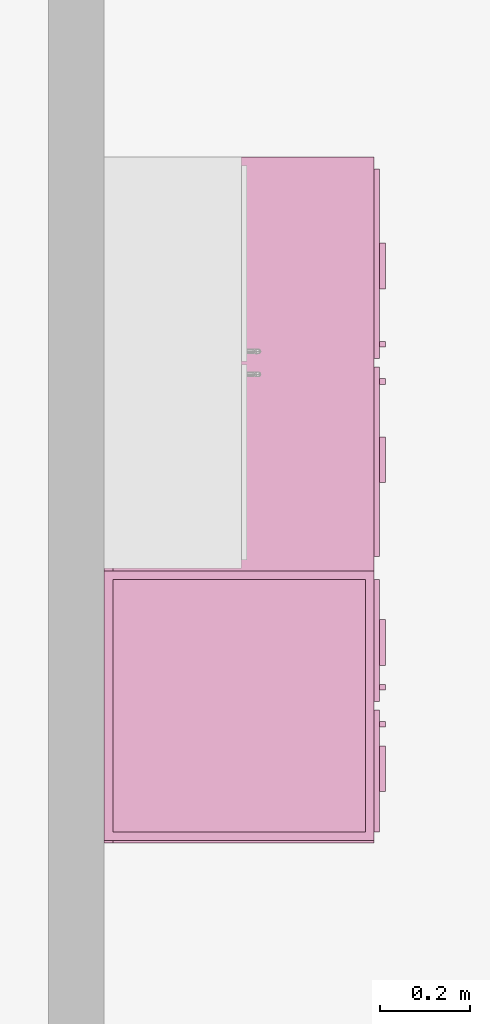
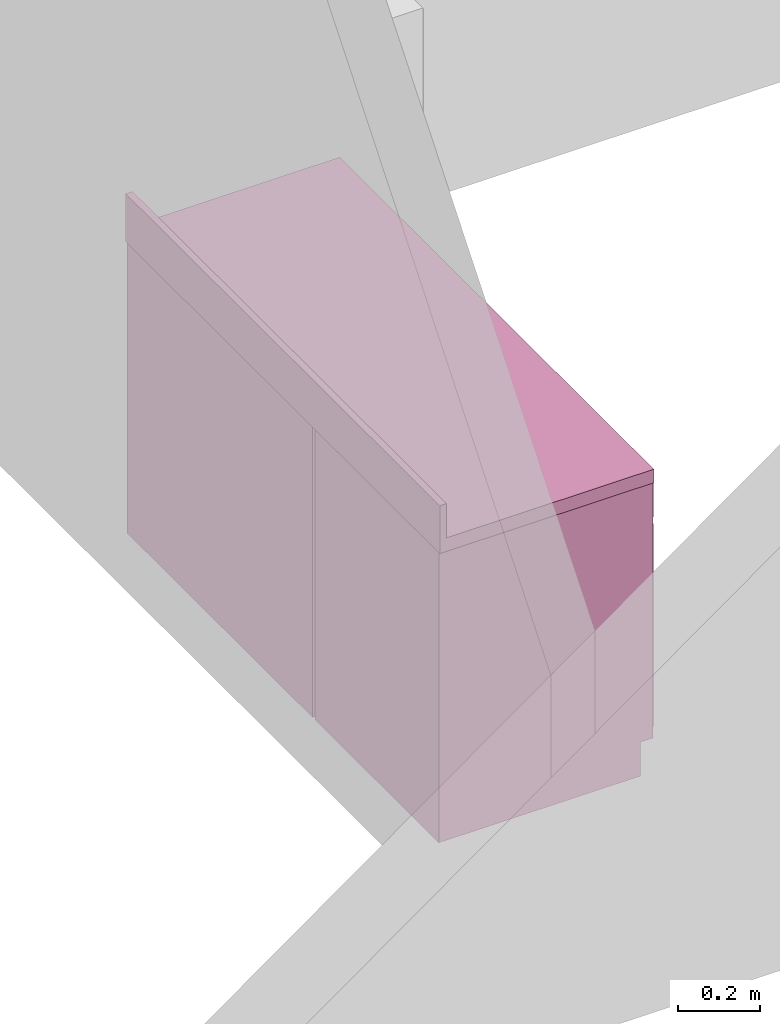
# One storey, part 71 of 82: 3 furnishings.
"""IFC2X3 building model written with IfcOpenShell, lengths in metres."""

from ifc_helpers import new_model, entity, si_unit, converted_unit, frame, origin, origin_2d_with_axis, place, context, project, spatial, rectangle, extrude, face_set, surface_model, source, transform, mapped, type_object, type_shapes, element, save


model = new_model("IFC2X3")

# Units and contexts
model_context = context("Model", 3, precision=1e-09, world=origin())
plan_context = context("Plan", 3, precision=1e-09, world=origin())
ifc_project = project(units=[si_unit("LENGTHUNIT", "METRE"), si_unit("AREAUNIT", "SQUARE_METRE"), si_unit("VOLUMEUNIT", "CUBIC_METRE"), converted_unit("PLANEANGLEUNIT", "DEGREE", entity("IfcRatioMeasure", 0.01745329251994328), si_unit("PLANEANGLEUNIT", "RADIAN"), dimensions=[0, 0, 0, 0, 0, 0, 0]), si_unit("TIMEUNIT", "SECOND")], contexts=[model_context, plan_context])

# Site, building, storey, space
site_placement = place(None, origin())
site = spatial("IfcSite", under=ifc_project, at=site_placement, Name="Default", CompositionType="ELEMENT")
building_placement = place(site_placement, origin())
building = spatial("IfcBuilding", under=site, at=building_placement, CompositionType="ELEMENT")
storey_placement = place(building_placement, origin())
storey = spatial("IfcBuildingStorey", under=building, at=storey_placement, Name="First Floor", CompositionType="ELEMENT", Elevation=-3.531500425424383e-13)
space_placement = place(storey_placement, origin())
space = spatial("IfcSpace", under=storey, at=space_placement, Name="1E04", CompositionType="ELEMENT", InteriorOrExteriorSpace="INTERNAL")

# Furnishings
furniture_type_1 = type_object("IfcFurnitureType", Name="600mm", AssemblyPlace="NOTDEFINED")
shared_shape_1 = source(origin(), model_context, "Body", "SurfaceModel", [
    surface_model("IfcFaceBasedSurfaceModel", [(0.5809499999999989, 0.0444500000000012, 0.86000000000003), (0.5809499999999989, 0.0444500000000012, 0.09999999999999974), (0.01905000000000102, 0.0444500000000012, 0.09999999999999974), (0.01905000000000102, 0.0444500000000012, 0.86000000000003), (0.5999999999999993, 0.02540000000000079, 0.8600000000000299), (0.0, 0.02540000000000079, 0.8600000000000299), (0.5999999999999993, 0.02540000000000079, 0.09999999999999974), (0.0, 0.02540000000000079, 0.0999999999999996), (0.01905000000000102, 0.6063499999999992, 0.86000000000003), (0.01905000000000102, 0.6063499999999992, 0.09999999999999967), (0.01905000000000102, 0.06040000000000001, 0.09999999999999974), (0.0, 0.6253999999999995, 0.8600000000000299), (0.0, 0.6254000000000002, 0.0), (0.0, 0.06040000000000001, 0.0), (0.0, 0.06040000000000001, 0.09999999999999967), (0.5809499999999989, 0.6063499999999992, 0.86000000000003), (0.5809499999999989, 0.6063499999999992, 0.09999999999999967), (0.5999999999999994, 0.6253999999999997, 0.8600000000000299), (0.5999999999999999, 0.6253999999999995, 0.0), (0.5809499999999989, 0.06040000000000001, 0.09999999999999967), (0.5999999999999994, 0.06040000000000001, 0.09999999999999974), (0.5999999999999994, 0.06040000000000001, 0.0), (0.2103250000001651, 0.0, 0.8155500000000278), (0.2103250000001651, 0.0, 0.8028500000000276), (0.1087250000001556, 0.0, 0.8028500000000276), (0.1087250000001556, 0.0, 0.8155500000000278), (0.4912750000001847, 0.0, 0.8155500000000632), (0.4912750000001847, 0.0, 0.8028500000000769), (0.3896750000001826, 0.0, 0.8028500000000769), (0.3896750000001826, 0.0, 0.8155500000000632), (0.2650750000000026, 0.0, 0.6822000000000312), (0.2650750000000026, 0.0, 0.5806000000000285), (0.2523750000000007, 0.0, 0.5806000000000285), (0.2523750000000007, 0.0, 0.6822000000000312), (0.3476249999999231, 0.0, 0.6822000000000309), (0.3476249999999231, 0.0, 0.5806000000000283), (0.3349249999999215, 0.0, 0.5806000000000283), (0.3349249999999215, 0.0, 0.6822000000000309), (0.2103250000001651, 0.0127000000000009, 0.8155500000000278), (0.2103250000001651, 0.0127000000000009, 0.8028500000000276), (0.1087250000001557, 0.01270000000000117, 0.8028500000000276), (0.1087250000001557, 0.01270000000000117, 0.8155500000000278), (0.4912750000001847, 0.01269999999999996, 0.8155500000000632), (0.4912750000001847, 0.01269999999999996, 0.8028500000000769), (0.3896750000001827, 0.01270000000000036, 0.8028500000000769), (0.3896750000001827, 0.01270000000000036, 0.8155500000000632), (0.2650750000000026, 0.01270000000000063, 0.6822000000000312), (0.2650750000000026, 0.01270000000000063, 0.5806000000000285), (0.2523750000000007, 0.01270000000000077, 0.5806000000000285), (0.2523750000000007, 0.01270000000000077, 0.6822000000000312), (0.3476249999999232, 0.0127000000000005, 0.6822000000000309), (0.3476249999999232, 0.0127000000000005, 0.5806000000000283), (0.3349249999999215, 0.0127000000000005, 0.5806000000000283), (0.3349249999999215, 0.0127000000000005, 0.6822000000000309), (0.2904749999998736, 0.01270000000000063, 0.8409500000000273), (0.2904749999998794, 0.01270000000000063, 0.7393500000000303), (0.01905000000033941, 0.01270000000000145, 0.7393500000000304), (0.01905000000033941, 0.01270000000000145, 0.8409500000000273), (0.5809500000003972, 0.01269999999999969, 0.8409500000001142), (0.5809500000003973, 0.01269999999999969, 0.7393500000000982), (0.3095249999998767, 0.0127000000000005, 0.7393500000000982), (0.309524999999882, 0.0127000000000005, 0.8409500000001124), (0.2904749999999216, 0.01270000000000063, 0.7203000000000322), (0.290474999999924, 0.01270000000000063, 0.1190499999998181), (0.01905000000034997, 0.01270000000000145, 0.1190499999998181), (0.01905000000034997, 0.01270000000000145, 0.7203000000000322), (0.5809500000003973, 0.01269999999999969, 0.7203000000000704), (0.5809500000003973, 0.01269999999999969, 0.1190499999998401), (0.3095249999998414, 0.0127000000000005, 0.1190499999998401), (0.3095249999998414, 0.0127000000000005, 0.7203000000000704), (0.2904749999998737, 0.02540000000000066, 0.8409500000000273), (0.2904749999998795, 0.02540000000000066, 0.7393500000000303), (0.01905000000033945, 0.02540000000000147, 0.7393500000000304), (0.01905000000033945, 0.02540000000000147, 0.8409500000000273), (0.5809500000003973, 0.02539999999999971, 0.8409500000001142), (0.5809500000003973, 0.02539999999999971, 0.7393500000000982), (0.3095249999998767, 0.02540000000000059, 0.7393500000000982), (0.309524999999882, 0.02540000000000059, 0.8409500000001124), (0.2904749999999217, 0.02540000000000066, 0.7203000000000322), (0.290474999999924, 0.02540000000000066, 0.1190499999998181), (0.01905000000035, 0.02540000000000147, 0.1190499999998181), (0.01905000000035, 0.02540000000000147, 0.7203000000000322), (0.5809500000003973, 0.02539999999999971, 0.7203000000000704), (0.5809500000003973, 0.02539999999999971, 0.1190499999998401), (0.3095249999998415, 0.02540000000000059, 0.1190499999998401), (0.3095249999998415, 0.02540000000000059, 0.7203000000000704), (0.580949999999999, 0.6063499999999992, 0.1190499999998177), (0.580949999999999, 0.04445000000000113, 0.1190499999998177), (0.01905000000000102, 0.04445000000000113, 0.1190499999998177), (0.01905000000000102, 0.6063499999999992, 0.1190499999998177), (0.580949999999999, 0.6063499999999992, 0.09999999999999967), (0.580949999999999, 0.04445000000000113, 0.09999999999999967), (0.01905000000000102, 0.04445000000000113, 0.09999999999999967)], [face_set([[[0, 1, 2, 3]], [[0, 4, 5, 3]], [[4, 6, 7, 5]], [[2, 1, 6, 7]], [[3, 8, 9, 10, 2]], [[5, 11, 8, 3]], [[7, 5, 11, 12, 13, 14]], [[2, 7, 14, 10]], [[8, 15, 16, 9]], [[11, 17, 15, 8]], [[12, 11, 17, 18]], [[1, 19, 16, 15, 0]], [[0, 15, 17, 4]], [[4, 6, 20, 21, 18, 17]], [[6, 1, 19, 20]], [[10, 9, 16, 19]], [[18, 21, 13, 12]], [[13, 14, 10, 19, 20, 21]]]), face_set([[[22, 23, 24, 25]], [[26, 27, 28, 29]], [[30, 31, 32, 33]], [[34, 35, 36, 37]], [[38, 39, 40, 41]], [[42, 43, 44, 45]], [[46, 47, 48, 49]], [[50, 51, 52, 53]], [[25, 41, 38, 22]], [[24, 40, 41, 25]], [[23, 24, 40, 39]], [[22, 23, 39, 38]], [[29, 45, 42, 26]], [[28, 44, 45, 29]], [[27, 28, 44, 43]], [[26, 27, 43, 42]], [[33, 49, 46, 30]], [[32, 48, 49, 33]], [[31, 32, 48, 47]], [[30, 31, 47, 46]], [[37, 53, 50, 34]], [[36, 52, 53, 37]], [[35, 36, 52, 51]], [[34, 35, 51, 50]]]), face_set([[[54, 55, 56, 57]], [[58, 59, 60, 61]], [[62, 63, 64, 65]], [[66, 67, 68, 69]], [[70, 71, 72, 73]], [[74, 75, 76, 77]], [[78, 79, 80, 81]], [[82, 83, 84, 85]], [[57, 73, 70, 54]], [[56, 57, 73, 72]], [[55, 56, 72, 71]], [[54, 55, 71, 70]], [[61, 77, 74, 58]], [[60, 76, 77, 61]], [[59, 60, 76, 75]], [[58, 59, 75, 74]], [[65, 81, 78, 62]], [[64, 65, 81, 80]], [[63, 64, 80, 79]], [[62, 63, 79, 78]], [[69, 85, 82, 66]], [[68, 84, 85, 69]], [[67, 68, 84, 83]], [[66, 67, 83, 82]]]), face_set([[[86, 87, 88, 89]], [[90, 91, 92, 9]], [[89, 86, 90, 9]], [[88, 89, 9, 92]], [[87, 91, 92, 88]], [[86, 87, 91, 90]]])]),
])
type_shapes(furniture_type_1, [shared_shape_1])
furnishing_1_placement = place(space_placement, frame((-25.15060000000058, 12.86251512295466, 0.0), z_axis=(0.0, 0.0, 1.0), x_axis=(0.0, 1.0, 0.0)))
element("IfcFurnishingElement", 1, at=furnishing_1_placement, inside=space, type_object=furniture_type_1, Name="M_Base Cabinet-Double Door & 2 Drawer:600mm:600mm", ObjectType="600mm", context=model_context, shape_type="MappedRepresentation", body=[
    mapped(shared_shape_1, transform((0.0, 0.0, 0.0), scale=1.0)),
])
furniture_type_2 = type_object("IfcFurnitureType", Name="900mm", AssemblyPlace="NOTDEFINED")
shared_shape_2 = source(origin(), model_context, "Body", "SurfaceModel", [
    surface_model("IfcFaceBasedSurfaceModel", [(0.8809499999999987, 0.04445000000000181, 0.86000000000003), (0.8809499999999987, 0.04445000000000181, 0.09999999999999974), (0.01905000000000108, 0.04445000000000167, 0.09999999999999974), (0.01905000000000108, 0.04445000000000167, 0.86000000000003), (0.8999999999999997, 0.02540000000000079, 0.8600000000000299), (0.0, 0.02540000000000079, 0.8600000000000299), (0.8999999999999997, 0.02540000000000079, 0.09999999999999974), (0.0, 0.02540000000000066, 0.0999999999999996), (0.01905000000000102, 0.6063499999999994, 0.86000000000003), (0.01905000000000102, 0.6063499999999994, 0.09999999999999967), (0.01905000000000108, 0.06040000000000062, 0.09999999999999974), (0.0, 0.6254000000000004, 0.8600000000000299), (0.0, 0.6254000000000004, 0.0), (0.0, 0.06040000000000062, 0.0), (0.0, 0.06040000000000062, 0.09999999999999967), (0.8809499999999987, 0.6063499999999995, 0.86000000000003), (0.8809499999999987, 0.6063499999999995, 0.09999999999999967), (0.8999999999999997, 0.6254000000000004, 0.8600000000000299), (0.8999999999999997, 0.6254000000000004, 0.0), (0.8809499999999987, 0.06040000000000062, 0.09999999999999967), (0.8999999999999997, 0.06040000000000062, 0.09999999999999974), (0.8999999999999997, 0.06040000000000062, 0.0), (0.2853250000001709, 0.0, 0.8155500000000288), (0.2853250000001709, 0.0, 0.8028500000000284), (0.1837250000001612, 0.0, 0.8028500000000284), (0.1837250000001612, 0.0, 0.8155500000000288), (0.716275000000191, 0.0, 0.8155500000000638), (0.716275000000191, 0.0, 0.8028500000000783), (0.6146750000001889, 0.0, 0.8028500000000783), (0.6146750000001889, 0.0, 0.8155500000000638), (0.4150750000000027, 0.0, 0.6822000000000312), (0.4150750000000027, 0.0, 0.5806000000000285), (0.4023750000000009, 0.0, 0.5806000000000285), (0.4023750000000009, 0.0, 0.6822000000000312), (0.4976249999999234, 0.0, 0.6822000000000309), (0.4976249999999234, 0.0, 0.5806000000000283), (0.4849249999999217, 0.0, 0.5806000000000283), (0.4849249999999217, 0.0, 0.6822000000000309), (0.285325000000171, 0.01270000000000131, 0.8155500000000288), (0.285325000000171, 0.01270000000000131, 0.8028500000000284), (0.1837250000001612, 0.01270000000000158, 0.8028500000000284), (0.1837250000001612, 0.01270000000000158, 0.8155500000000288), (0.7162750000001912, 0.01269999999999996, 0.8155500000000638), (0.7162750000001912, 0.01269999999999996, 0.8028500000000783), (0.6146750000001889, 0.01270000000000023, 0.8028500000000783), (0.6146750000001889, 0.01270000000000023, 0.8155500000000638), (0.4150750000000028, 0.0127000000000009, 0.6822000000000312), (0.4150750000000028, 0.0127000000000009, 0.5806000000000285), (0.4023750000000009, 0.0127000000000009, 0.5806000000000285), (0.4023750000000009, 0.0127000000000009, 0.6822000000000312), (0.4976249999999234, 0.01270000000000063, 0.6822000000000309), (0.4976249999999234, 0.01270000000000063, 0.5806000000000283), (0.4849249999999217, 0.01270000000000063, 0.5806000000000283), (0.4849249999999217, 0.01270000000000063, 0.6822000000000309), (0.4404749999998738, 0.01270000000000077, 0.8409500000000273), (0.4404749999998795, 0.01270000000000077, 0.7393500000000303), (0.01905000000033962, 0.01270000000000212, 0.7393500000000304), (0.01905000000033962, 0.01270000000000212, 0.8409500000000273), (0.8809500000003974, 0.01269999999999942, 0.8409500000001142), (0.8809500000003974, 0.01269999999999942, 0.7393500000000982), (0.4595249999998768, 0.01270000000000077, 0.7393500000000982), (0.4595249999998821, 0.01270000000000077, 0.8409500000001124), (0.4404749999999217, 0.01270000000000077, 0.7203000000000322), (0.4404749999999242, 0.01270000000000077, 0.1190499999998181), (0.01905000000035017, 0.01270000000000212, 0.1190499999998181), (0.01905000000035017, 0.01270000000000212, 0.7203000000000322), (0.8809500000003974, 0.01269999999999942, 0.7203000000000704), (0.8809500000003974, 0.01269999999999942, 0.1190499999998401), (0.4595249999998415, 0.01270000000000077, 0.1190499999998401), (0.4595249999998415, 0.01270000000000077, 0.7203000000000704), (0.4404749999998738, 0.02540000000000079, 0.8409500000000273), (0.4404749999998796, 0.02540000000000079, 0.7393500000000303), (0.01905000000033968, 0.02540000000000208, 0.7393500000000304), (0.01905000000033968, 0.02540000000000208, 0.8409500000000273), (0.8809500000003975, 0.02539999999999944, 0.8409500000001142), (0.8809500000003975, 0.02539999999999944, 0.7393500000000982), (0.4595249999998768, 0.02540000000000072, 0.7393500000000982), (0.4595249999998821, 0.02540000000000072, 0.8409500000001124), (0.4404749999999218, 0.02540000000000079, 0.7203000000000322), (0.4404749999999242, 0.02540000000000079, 0.1190499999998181), (0.01905000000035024, 0.02540000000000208, 0.1190499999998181), (0.01905000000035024, 0.02540000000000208, 0.7203000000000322), (0.8809500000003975, 0.02539999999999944, 0.7203000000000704), (0.8809500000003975, 0.02539999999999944, 0.1190499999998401), (0.4595249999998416, 0.02540000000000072, 0.1190499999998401), (0.4595249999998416, 0.02540000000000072, 0.7203000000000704), (0.8809499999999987, 0.6063499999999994, 0.1190499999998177), (0.8809499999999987, 0.04445000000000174, 0.1190499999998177), (0.01905000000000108, 0.04445000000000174, 0.1190499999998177), (0.01905000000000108, 0.6063499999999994, 0.1190499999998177), (0.8809499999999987, 0.6063499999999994, 0.09999999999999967), (0.8809499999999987, 0.04445000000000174, 0.09999999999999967), (0.01905000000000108, 0.04445000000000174, 0.09999999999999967), (0.01905000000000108, 0.6063499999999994, 0.09999999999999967)], [face_set([[[0, 1, 2, 3]], [[0, 4, 5, 3]], [[4, 6, 7, 5]], [[2, 1, 6, 7]], [[3, 8, 9, 10, 2]], [[5, 11, 8, 3]], [[7, 5, 11, 12, 13, 14]], [[2, 7, 14, 10]], [[8, 15, 16, 9]], [[11, 17, 15, 8]], [[12, 11, 17, 18]], [[1, 19, 16, 15, 0]], [[0, 15, 17, 4]], [[4, 6, 20, 21, 18, 17]], [[6, 1, 19, 20]], [[10, 9, 16, 19]], [[18, 21, 13, 12]], [[13, 14, 10, 19, 20, 21]]]), face_set([[[22, 23, 24, 25]], [[26, 27, 28, 29]], [[30, 31, 32, 33]], [[34, 35, 36, 37]], [[38, 39, 40, 41]], [[42, 43, 44, 45]], [[46, 47, 48, 49]], [[50, 51, 52, 53]], [[25, 41, 38, 22]], [[24, 40, 41, 25]], [[23, 24, 40, 39]], [[22, 23, 39, 38]], [[29, 45, 42, 26]], [[28, 44, 45, 29]], [[27, 28, 44, 43]], [[26, 27, 43, 42]], [[33, 49, 46, 30]], [[32, 48, 49, 33]], [[31, 32, 48, 47]], [[30, 31, 47, 46]], [[37, 53, 50, 34]], [[36, 52, 53, 37]], [[35, 36, 52, 51]], [[34, 35, 51, 50]]]), face_set([[[54, 55, 56, 57]], [[58, 59, 60, 61]], [[62, 63, 64, 65]], [[66, 67, 68, 69]], [[70, 71, 72, 73]], [[74, 75, 76, 77]], [[78, 79, 80, 81]], [[82, 83, 84, 85]], [[57, 73, 70, 54]], [[56, 57, 73, 72]], [[55, 56, 72, 71]], [[54, 55, 71, 70]], [[61, 77, 74, 58]], [[60, 76, 77, 61]], [[59, 60, 76, 75]], [[58, 59, 75, 74]], [[65, 81, 78, 62]], [[64, 65, 81, 80]], [[63, 64, 80, 79]], [[62, 63, 79, 78]], [[69, 85, 82, 66]], [[68, 84, 85, 69]], [[67, 68, 84, 83]], [[66, 67, 83, 82]]]), face_set([[[86, 87, 88, 89]], [[90, 91, 92, 93]], [[89, 86, 90, 93]], [[88, 89, 93, 92]], [[87, 91, 92, 88]], [[86, 87, 91, 90]]])]),
])
type_shapes(furniture_type_2, [shared_shape_2])
furnishing_2_placement = place(space_placement, frame((-25.15060000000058, 13.47501509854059, 0.0), z_axis=(0.0, 0.0, 1.0), x_axis=(0.0, 1.0, 0.0)))
element("IfcFurnishingElement", 2, at=furnishing_2_placement, inside=space, type_object=furniture_type_2, Name="M_Base Cabinet-Double Door & 2 Drawer:900mm:900mm", ObjectType="900mm", context=model_context, shape_type="MappedRepresentation", body=[
    mapped(shared_shape_2, transform((0.0, 0.0, 0.0), scale=1.0)),
])
furniture_type_3 = type_object("IfcFurnitureType", Name="600mm Depth", AssemblyPlace="NOTDEFINED")
shared_shape_3 = source(origin(), model_context, "Body", "SweptSolid", [
    extrude(rectangle(XDim=0.01905000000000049, YDim=1.524999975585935, at=origin_2d_with_axis()), frame((-0.4379623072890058, -0.009525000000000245, 0.9000000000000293), z_axis=(0.0, 0.0, 1.0), x_axis=(0.0, -1.0, 0.0)), (0.0, 0.0, 1.0), 0.1016000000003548),
    extrude(rectangle(XDim=1.524999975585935, YDim=0.5999999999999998, at=origin_2d_with_axis()), frame((-0.4379623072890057, -0.2999999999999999, 0.8600000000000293), z_axis=(0.0, 0.0, 1.0), x_axis=(-1.0, 0.0, 0.0)), (0.0, 0.0, 1.0), 0.04000000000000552),
])
type_shapes(furniture_type_3, [shared_shape_3])
furnishing_3_placement = place(space_placement, frame((-25.77600000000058, 14.05797741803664, 0.0), z_axis=(0.0, 0.0, 1.0), x_axis=(0.0, 1.0, 0.0)))
element("IfcFurnishingElement", 3, at=furnishing_3_placement, inside=space, type_object=furniture_type_3, Name="M_Counter Top:600mm Depth:600mm Depth", ObjectType="600mm Depth", context=model_context, shape_type="MappedRepresentation", body=[
    mapped(shared_shape_3, transform((0.0, 0.0, 0.0), scale=1.0)),
])

save(model, "model.ifc")
